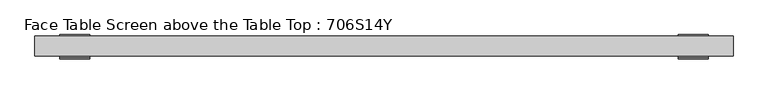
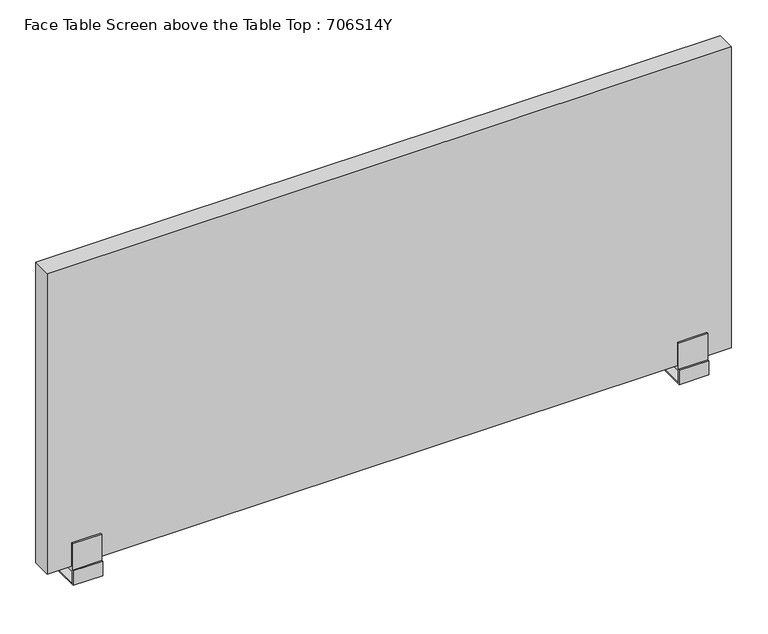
"""IFC4 building model written with IfcOpenShell, lengths in millimetres: furniture geometry, Face Table Screen above the Table Top : 706S14Y."""

from ifc_helpers import new_model, si_unit, frame, origin, place, context, project, spatial, polyline, circle_curve, outline, extrude, source, transform, mapped, element, save
from ifc_brep_helpers import plane_surface, cylinder_surface, advanced_brep


def face_table_screen_above_the_table_top_706s14y_8a8b96d7(model_context):
    return source(origin(), model_context, "Body", "SolidModel", [
        advanced_brep(
        [(-625.0, 0.0, -39.4406633), (-615.0, 0.0, -39.4406633), (-615.0, 0.0, -28.0), (-625.0, 0.0, -28.0), (-650.0, 23.0, -25.0), (-650.0, -23.0, -25.0), (-590.0, -23.0, -25.0), (-590.0, 23.0, -25.0), (-650.0, -23.0, 0.0), (-650.0, 23.0, -28.0), (-650.0, -26.0, -28.0), (-650.0, -26.0, 3.0), (-650.0, -23.0, 3.0), (-650.0, -23.0, 60.0), (-650.0, -20.0, 60.0), (-650.0, -20.0, 10.0), (-650.0, 20.0, 10.0), (-650.0, 20.0, 60.0), (-650.0, 23.0, 60.0), (-650.0, 23.0, 0.0), (-590.0, -23.0, 0.0), (-590.0, 23.0, 0.0), (-590.0, 23.0, 60.0), (-590.0, 20.0, 60.0), (-590.0, 20.0, 10.0), (-590.0, -20.0, 10.0), (-590.0, -20.0, 60.0), (-590.0, -23.0, 60.0), (-590.0, -23.0, 3.0), (-590.0, -26.0, 3.0), (-590.0, -26.0, -28.0), (-590.0, 23.0, -28.0)],
        [
            (0, 1, circle_curve(frame((-620.0, 0.0, -39.4406633), z_axis=(0.0, 0.0, -1.0), x_axis=(1.0, 0.0, 0.0)), 5.0)),
            (1, 0, circle_curve(frame((-620.0, 0.0, -39.4406633), z_axis=(0.0, 0.0, -1.0), x_axis=(1.0, 0.0, 0.0)), 5.0)),
            (1, 2),
            (2, 3, circle_curve(frame((-620.0, 0.0, -28.0), z_axis=(0.0, 0.0, -1.0), x_axis=(1.0, 0.0, 0.0)), 5.0)),
            (3, 0),
            (3, 2, circle_curve(frame((-620.0, 0.0, -28.0), z_axis=(0.0, 0.0, -1.0), x_axis=(1.0, 0.0, 0.0)), 5.0)),
            (4, 5),
            (5, 6),
            (6, 7),
            (7, 4),
            (8, 5),
            (4, 9),
            (9, 10),
            (10, 11),
            (11, 12),
            (12, 13),
            (13, 14),
            (14, 15),
            (15, 16),
            (16, 17),
            (17, 18),
            (18, 19),
            (19, 8),
            (20, 21),
            (21, 22),
            (22, 23),
            (23, 24),
            (24, 25),
            (25, 26),
            (26, 27),
            (27, 28),
            (28, 29),
            (29, 30),
            (30, 31),
            (31, 7),
            (6, 20),
            (19, 21),
            (20, 8),
            (18, 22),
            (17, 23),
            (16, 24),
            (15, 25),
            (14, 26),
            (13, 27),
            (12, 28),
            (11, 29),
            (10, 30),
            (9, 31),
        ],
        [
            plane_surface(frame((-615.0, 0.0, -39.4406633), z_axis=(0.0, 0.0, -1.0), x_axis=(0.0, -1.0, 0.0))),
            cylinder_surface(frame((-620.0, 0.0, -39.4406633), z_axis=(0.0, 0.0, 1.0), x_axis=(1.0, 0.0, 0.0)), 5.0),
            plane_surface(frame((-615.0, 0.0, -25.0), z_axis=(0.0, 0.0, 1.0), x_axis=(0.0, 1.0, 0.0))),
            plane_surface(frame((-650.0, 23.0, 0.0), z_axis=(-1.0, 0.0, 0.0), x_axis=(0.0, -1.0, 0.0))),
            plane_surface(frame((-590.0, 23.0, 0.0), z_axis=(1.0, 0.0, 0.0), x_axis=(0.0, 1.0, 0.0))),
            plane_surface(frame((-590.0, -23.0, 0.0), z_axis=(0.0, 0.0, -1.0), x_axis=(-1.0, 0.0, 0.0))),
            plane_surface(frame((-590.0, 23.0, 0.0), z_axis=(0.0, 1.0, 0.0), x_axis=(-1.0, 0.0, 0.0))),
            plane_surface(frame((-590.0, 23.0, 60.0), z_axis=(0.0, 0.0, 1.0), x_axis=(-1.0, 0.0, 0.0))),
            plane_surface(frame((-590.0, 20.0, 60.0), z_axis=(0.0, -1.0, 0.0), x_axis=(-1.0, 0.0, 0.0))),
            plane_surface(frame((-590.0, 20.0, 10.0), z_axis=(0.0, 0.0, 1.0), x_axis=(-1.0, 0.0, 0.0))),
            plane_surface(frame((-590.0, -20.0, 10.0), z_axis=(0.0, 1.0, 0.0), x_axis=(-1.0, 0.0, 0.0))),
            plane_surface(frame((-590.0, -20.0, 60.0), z_axis=(0.0, 0.0, 1.0), x_axis=(-1.0, 0.0, 0.0))),
            plane_surface(frame((-590.0, -23.0, 60.0), z_axis=(0.0, -1.0, 0.0), x_axis=(-1.0, 0.0, 0.0))),
            plane_surface(frame((-590.0, -23.0, 3.0), z_axis=(0.0, 0.0, 1.0), x_axis=(-1.0, 0.0, 0.0))),
            plane_surface(frame((-590.0, -26.0, 3.0), z_axis=(0.0, -1.0, 0.0), x_axis=(-1.0, 0.0, 0.0))),
            plane_surface(frame((-590.0, -26.0, -28.0), z_axis=(0.0, 0.0, -1.0), x_axis=(-1.0, 0.0, 0.0))),
            plane_surface(frame((-590.0, 23.0, -28.0), z_axis=(0.0, 1.0, 0.0), x_axis=(-1.0, 0.0, 0.0))),
            plane_surface(frame((-590.0, -23.0, -25.0), z_axis=(0.0, 1.0, 0.0), x_axis=(-1.0, 0.0, 0.0))),
        ],
        [
            (0, [[1, 2]]),
            (1, [[-2, 3, 4, 5]]),
            (1, [[-1, -5, 6, -3]]),
            (2, [[7, 8, 9, 10]]),
            (3, [[11, -7, 12, 13, 14, 15, 16, 17, 18, 19, 20, 21, 22, 23]]),
            (4, [[24, 25, 26, 27, 28, 29, 30, 31, 32, 33, 34, 35, -9, 36]]),
            (5, [[-23, 37, -24, 38]]),
            (6, [[-22, 39, -25, -37]]),
            (7, [[-21, 40, -26, -39]]),
            (8, [[-20, 41, -27, -40]]),
            (9, [[-19, 42, -28, -41]]),
            (10, [[-18, 43, -29, -42]]),
            (11, [[-17, 44, -30, -43]]),
            (12, [[-16, 45, -31, -44]]),
            (13, [[-15, 46, -32, -45]]),
            (14, [[-14, 47, -33, -46]]),
            (15, [[-13, 48, -34, -47], [-4, -6]]),
            (16, [[-12, -10, -35, -48]]),
            (17, [[-11, -38, -36, -8]]),
        ],
    ),
        advanced_brep(
        [(615.0, 0.0, -39.4406633), (625.0, 0.0, -39.4406633), (625.0, 0.0, -28.0), (615.0, 0.0, -28.0), (590.0, 23.0, -25.0), (590.0, -23.0, -25.0), (650.0, -23.0, -25.0), (650.0, 23.0, -25.0), (590.0, -23.0, 0.0), (590.0, 23.0, -28.0), (590.0, -26.0, -28.0), (590.0, -26.0, 3.0), (590.0, -23.0, 3.0), (590.0, -23.0, 60.0), (590.0, -20.0, 60.0), (590.0, -20.0, 10.0), (590.0, 20.0, 10.0), (590.0, 20.0, 60.0), (590.0, 23.0, 60.0), (590.0, 23.0, 0.0), (650.0, -23.0, 0.0), (650.0, 23.0, 0.0), (650.0, 23.0, 60.0), (650.0, 20.0, 60.0), (650.0, 20.0, 10.0), (650.0, -20.0, 10.0), (650.0, -20.0, 60.0), (650.0, -23.0, 60.0), (650.0, -23.0, 3.0), (650.0, -26.0, 3.0), (650.0, -26.0, -28.0), (650.0, 23.0, -28.0)],
        [
            (0, 1, circle_curve(frame((620.0, 0.0, -39.4406633), z_axis=(0.0, 0.0, -1.0), x_axis=(1.0, 0.0, 0.0)), 5.0)),
            (1, 0, circle_curve(frame((620.0, 0.0, -39.4406633), z_axis=(0.0, 0.0, -1.0), x_axis=(1.0, 0.0, 0.0)), 5.0)),
            (1, 2),
            (2, 3, circle_curve(frame((620.0, 0.0, -28.0), z_axis=(0.0, 0.0, -1.0), x_axis=(1.0, 0.0, 0.0)), 5.0)),
            (3, 0),
            (3, 2, circle_curve(frame((620.0, 0.0, -28.0), z_axis=(0.0, 0.0, -1.0), x_axis=(1.0, 0.0, 0.0)), 5.0)),
            (4, 5),
            (5, 6),
            (6, 7),
            (7, 4),
            (8, 5),
            (4, 9),
            (9, 10),
            (10, 11),
            (11, 12),
            (12, 13),
            (13, 14),
            (14, 15),
            (15, 16),
            (16, 17),
            (17, 18),
            (18, 19),
            (19, 8),
            (20, 21),
            (21, 22),
            (22, 23),
            (23, 24),
            (24, 25),
            (25, 26),
            (26, 27),
            (27, 28),
            (28, 29),
            (29, 30),
            (30, 31),
            (31, 7),
            (6, 20),
            (19, 21),
            (20, 8),
            (18, 22),
            (17, 23),
            (16, 24),
            (15, 25),
            (14, 26),
            (13, 27),
            (12, 28),
            (11, 29),
            (10, 30),
            (9, 31),
        ],
        [
            plane_surface(frame((625.0, 0.0, -39.4406633), z_axis=(0.0, 0.0, -1.0), x_axis=(0.0, -1.0, 0.0))),
            cylinder_surface(frame((620.0, 0.0, -39.4406633), z_axis=(0.0, 0.0, 1.0), x_axis=(1.0, 0.0, 0.0)), 5.0),
            plane_surface(frame((625.0, 0.0, -25.0), z_axis=(0.0, 0.0, 1.0), x_axis=(0.0, 1.0, 0.0))),
            plane_surface(frame((590.0, 23.0, 0.0), z_axis=(-1.0, 0.0, 0.0), x_axis=(0.0, -1.0, 0.0))),
            plane_surface(frame((650.0, 23.0, 0.0), z_axis=(1.0, 0.0, 0.0), x_axis=(0.0, 1.0, 0.0))),
            plane_surface(frame((650.0, -23.0, 0.0), z_axis=(0.0, 0.0, -1.0), x_axis=(-1.0, 0.0, 0.0))),
            plane_surface(frame((650.0, 23.0, 0.0), z_axis=(0.0, 1.0, 0.0), x_axis=(-1.0, 0.0, 0.0))),
            plane_surface(frame((650.0, 23.0, 60.0), z_axis=(0.0, 0.0, 1.0), x_axis=(-1.0, 0.0, 0.0))),
            plane_surface(frame((650.0, 20.0, 60.0), z_axis=(0.0, -1.0, 0.0), x_axis=(-1.0, 0.0, 0.0))),
            plane_surface(frame((650.0, 20.0, 10.0), z_axis=(0.0, 0.0, 1.0), x_axis=(-1.0, 0.0, 0.0))),
            plane_surface(frame((650.0, -20.0, 10.0), z_axis=(0.0, 1.0, 0.0), x_axis=(-1.0, 0.0, 0.0))),
            plane_surface(frame((650.0, -20.0, 60.0), z_axis=(0.0, 0.0, 1.0), x_axis=(-1.0, 0.0, 0.0))),
            plane_surface(frame((650.0, -23.0, 60.0), z_axis=(0.0, -1.0, 0.0), x_axis=(-1.0, 0.0, 0.0))),
            plane_surface(frame((650.0, -23.0, 3.0), z_axis=(0.0, 0.0, 1.0), x_axis=(-1.0, 0.0, 0.0))),
            plane_surface(frame((650.0, -26.0, 3.0), z_axis=(0.0, -1.0, 0.0), x_axis=(-1.0, 0.0, 0.0))),
            plane_surface(frame((650.0, -26.0, -28.0), z_axis=(0.0, 0.0, -1.0), x_axis=(-1.0, 0.0, 0.0))),
            plane_surface(frame((650.0, 23.0, -28.0), z_axis=(0.0, 1.0, 0.0), x_axis=(-1.0, 0.0, 0.0))),
            plane_surface(frame((650.0, -23.0, -25.0), z_axis=(0.0, 1.0, 0.0), x_axis=(-1.0, 0.0, 0.0))),
        ],
        [
            (0, [[1, 2]]),
            (1, [[-2, 3, 4, 5]]),
            (1, [[-1, -5, 6, -3]]),
            (2, [[7, 8, 9, 10]]),
            (3, [[11, -7, 12, 13, 14, 15, 16, 17, 18, 19, 20, 21, 22, 23]]),
            (4, [[24, 25, 26, 27, 28, 29, 30, 31, 32, 33, 34, 35, -9, 36]]),
            (5, [[-23, 37, -24, 38]]),
            (6, [[-22, 39, -25, -37]]),
            (7, [[-21, 40, -26, -39]]),
            (8, [[-20, 41, -27, -40]]),
            (9, [[-19, 42, -28, -41]]),
            (10, [[-18, 43, -29, -42]]),
            (11, [[-17, 44, -30, -43]]),
            (12, [[-16, 45, -31, -44]]),
            (13, [[-15, 46, -32, -45]]),
            (14, [[-14, 47, -33, -46]]),
            (15, [[-13, 48, -34, -47], [-4, -6]]),
            (16, [[-12, -10, -35, -48]]),
            (17, [[-11, -38, -36, -8]]),
        ],
    ),
        extrude(outline(polyline([(700.0, -20.0), (-700.0, -20.0), (-700.0, 20.0), (700.0, 20.0), (700.0, -20.0)])), frame((0.0, 0.0, 10.0), z_axis=(0.0, 0.0, 1.0), x_axis=(1.0, 0.0, 0.0)), (0.0, 0.0, 1.0), 650.0),
    ])


if __name__ == "__main__":
    model = new_model("IFC4")
    model_context = context("Model", 3, world=origin())
    ifc_project = project(units=[si_unit("LENGTHUNIT", "METRE", prefix="MILLI")], contexts=[model_context])
    site = spatial("IfcSite", under=ifc_project)
    building = spatial("IfcBuilding", under=site)
    placement = place(None, origin())
    face_table_screen_above_the_table_top_706s14y_shape = face_table_screen_above_the_table_top_706s14y_8a8b96d7(model_context)
    element("IfcFurniture", 1, ObjectType="Face Table Screen above the Table Top : 706S14Y", at=placement, inside=building, context=model_context, shape_type="MappedRepresentation", body=[
        mapped(face_table_screen_above_the_table_top_706s14y_shape, transform((0.0, 0.0, 0.0), x_axis=(1.0, 0.0, 0.0), y_axis=(0.0, 1.0, 0.0), z_axis=(0.0, 0.0, 1.0))),
    ])
    save(model, "model.ifc")
